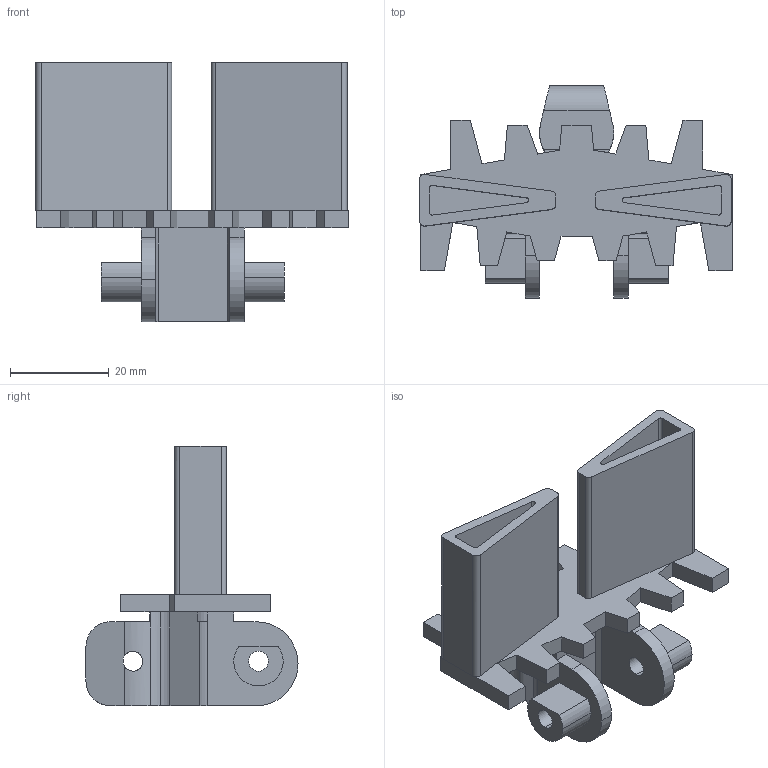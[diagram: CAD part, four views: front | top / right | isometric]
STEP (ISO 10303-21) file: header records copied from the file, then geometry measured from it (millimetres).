
FILE_DESCRIPTION (( 'STEP AP214' ), '1' );
FILE_NAME ('FSCT-5A30.STEP', '2011-04-14T11:10:55', ( '.' ), ( '' ), 'SwSTEP 2.0', 'SolidWorks 2010', '' );
FILE_SCHEMA (( 'AUTOMOTIVE_DESIGN' ));
Length unit declared in the file: millimetre
Products named in the file (1): FSCT-5A30
Bounding box: 63.25 x 42.9 x 52.5 mm (x, y, z)
Volume: 21166.3 mm3; surface area: 14010.1 mm2
Topology: 1 solids, 1 shells, 142 faces, 404 edges, 266 vertices
Faces by surface type: plane 98, cylinder 44
Entity records: 5739 total; most frequent: CARTESIAN_POINT 927, ORIENTED_EDGE 808, DIRECTION 760, EDGE_CURVE 404, LINE 306, VECTOR 306, VERTEX_POINT 266, AXIS2_PLACEMENT_3D 227
